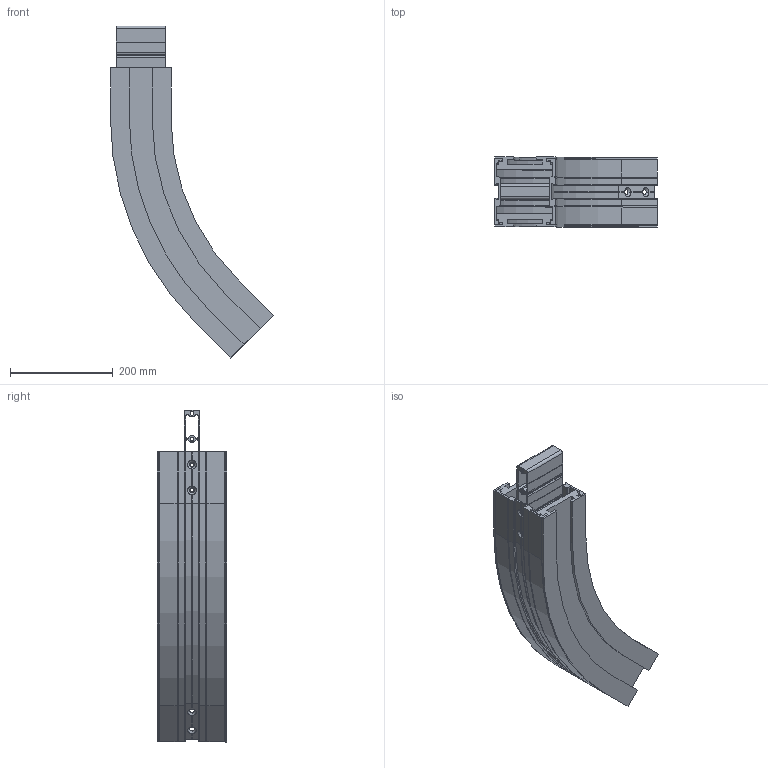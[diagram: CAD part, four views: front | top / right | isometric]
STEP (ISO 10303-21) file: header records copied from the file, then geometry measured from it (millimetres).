
FILE_DESCRIPTION (( 'STEP AP203' ), '1' );
FILE_NAME ('R3C500-45.STEP', '2009-01-13T08:23:31', ( 'faber' ), ( '' ), 'SwSTEP 2.0', 'SolidWorks 2008', '' );
FILE_SCHEMA (( 'CONFIG_CONTROL_DESIGN' ));
Length unit declared in the file: millimetre
Products named in the file (1): R3C500-45
Bounding box: 317.88 x 136 x 647.73 mm (x, y, z)
Surface area: 734927.4 mm2 (no closed solid volume)
Topology: 0 solids, 9 shells, 383 faces, 1501 edges, 1060 vertices
Faces by surface type: cylinder 172, plane 169, cone 24, torus 18
Entity records: 15682 total; most frequent: CARTESIAN_POINT 3041, DIRECTION 2735, ORIENTED_EDGE 2334, EDGE_CURVE 1501, VERTEX_POINT 1060, LINE 971, VECTOR 971, AXIS2_PLACEMENT_3D 882
